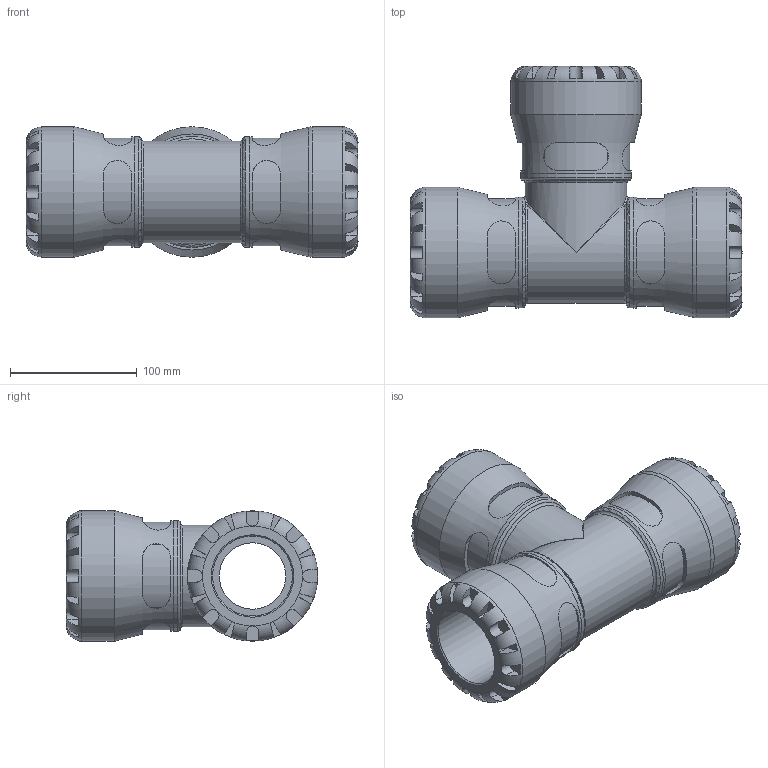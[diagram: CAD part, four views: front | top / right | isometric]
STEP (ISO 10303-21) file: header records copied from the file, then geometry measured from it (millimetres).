
FILE_DESCRIPTION(/* description */ ('PLASSON TEE 63X63X63 SERIES 1'),/* implementation_level */ '2;1');
FILE_NAME(/* name */ 'C:\Dropbox\KIMPROJECTS-Inventor\99-16-3568-Processing\S1\1004\100400063_190400063.ipt.stp',/* time_stamp */ '2018-02-11T12:57:39+02:00',/* author */ ('KIM'),/* organization */ (''),/* preprocessor_version */ 'ST-DEVELOPER v15.6',/* originating_system */ 'Autodesk Inventor 2015',/* authorisation */ '');
FILE_SCHEMA (('AUTOMOTIVE_DESIGN { 1 0 10303 214 3 1 1 }'));
Length unit declared in the file: millimetre
Products named in the file (1): 100400063_190400063
Bounding box: 262 x 198.5 x 103 mm (x, y, z)
Volume: 1351454.6 mm3; surface area: 201967.4 mm2
Topology: 1 solids, 1 shells, 304 faces, 782 edges, 487 vertices
Faces by surface type: plane 182, cylinder 97, torus 13, bspline 10, cone 2
Full cylindrical faces by diameter (mm): 52.5 x2, 63 x3, 80.34 x1, 87.55 x3, 103 x3
Entity records: 12279 total; most frequent: CARTESIAN_POINT 5145, ORIENTED_EDGE 1464, DIRECTION 1382, EDGE_CURVE 732, AXIS2_PLACEMENT_3D 567, VERTEX_POINT 470, EDGE_LOOP 348, FACE_OUTER_BOUND 304
